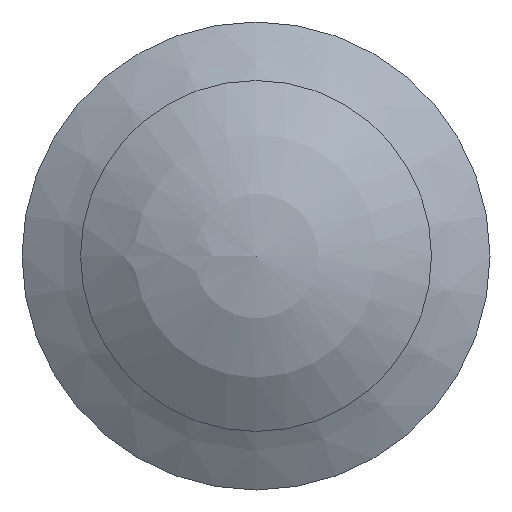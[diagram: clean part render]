
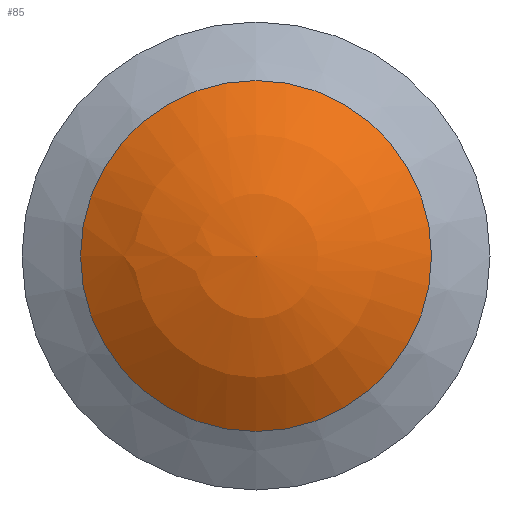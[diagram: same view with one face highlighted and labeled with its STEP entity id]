
A CAD part, front view. The second image highlights one B-rep face of the part: STEP entity #85.
In plain terms, the highlighted spherical face has radius 3.75 mm.
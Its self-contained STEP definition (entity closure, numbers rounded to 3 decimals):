
#85 = ADVANCED_FACE( '', ( #118, #119 ), #120, .T. );
#118 = FACE_BOUND( '', #156, .T. );
#119 = FACE_OUTER_BOUND( '', #157, .T. );
#120 = SPHERICAL_SURFACE( '', #158, 3.75 );
#156 = VERTEX_LOOP( '', #230 );
#157 = EDGE_LOOP( '', ( #231 ) );
#158 = AXIS2_PLACEMENT_3D( '', #232, #233, #234 );
#230 = VERTEX_POINT( '', #285 );
#231 = ORIENTED_EDGE( '', *, *, #284, .T. );
#232 = CARTESIAN_POINT( '', ( 0., 3.75, 0. ) );
#233 = DIRECTION( '', ( 0., -1., 0. ) );
#234 = DIRECTION( '', ( -1., 0., 0. ) );
#284 = EDGE_CURVE( '', #328, #328, #329, .T. );
#285 = CARTESIAN_POINT( '', ( 0., 0., 0. ) );
#328 = VERTEX_POINT( '', #387 );
#329 = CIRCLE( '', #388, 2.25 );
#387 = CARTESIAN_POINT( '', ( 0., 0.75, -2.25 ) );
#388 = AXIS2_PLACEMENT_3D( '', #428, #429, #430 );
#428 = CARTESIAN_POINT( '', ( 0., 0.75, 0. ) );
#429 = DIRECTION( '', ( 0., -1., 0. ) );
#430 = DIRECTION( '', ( 0., 0., -1. ) );
